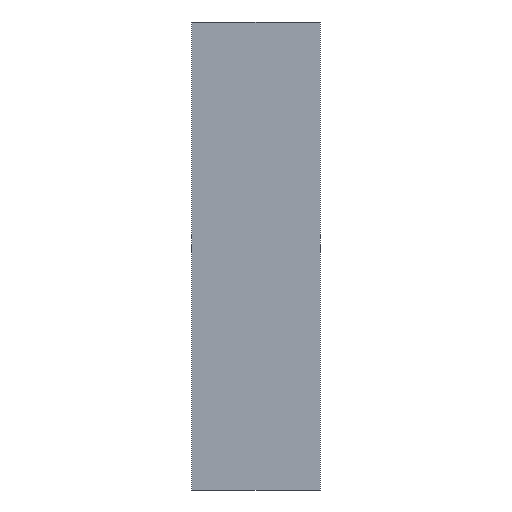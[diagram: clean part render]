
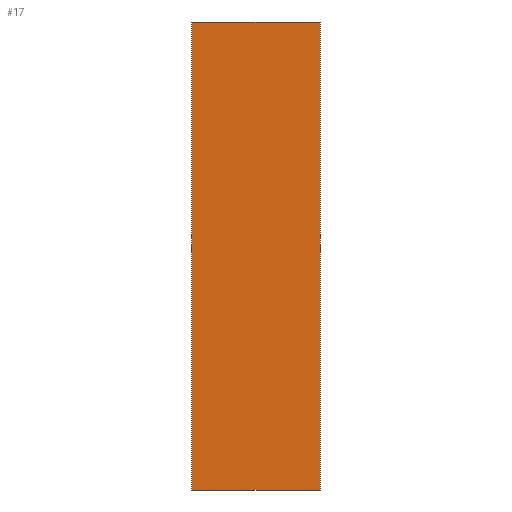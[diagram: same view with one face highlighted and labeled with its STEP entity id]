
A CAD part, left-side view. The second image highlights one B-rep face of the part: STEP entity #17.
In plain terms, the highlighted planar face has unit normal (-1, 0, 0).
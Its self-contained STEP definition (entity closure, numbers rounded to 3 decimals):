
#17 = ADVANCED_FACE('',(#18),#52,.F.);
#18 = FACE_BOUND('',#19,.F.);
#19 = EDGE_LOOP('',(#20,#30,#38,#46));
#20 = ORIENTED_EDGE('',*,*,#21,.F.);
#21 = EDGE_CURVE('',#22,#24,#26,.T.);
#22 = VERTEX_POINT('',#23);
#23 = CARTESIAN_POINT('',(-4.,-22.,0.));
#24 = VERTEX_POINT('',#25);
#25 = CARTESIAN_POINT('',(-4.,-22.,160.));
#26 = LINE('',#27,#28);
#27 = CARTESIAN_POINT('',(-4.,-22.,0.));
#28 = VECTOR('',#29,1.);
#29 = DIRECTION('',(0.,0.,1.));
#30 = ORIENTED_EDGE('',*,*,#31,.T.);
#31 = EDGE_CURVE('',#22,#32,#34,.T.);
#32 = VERTEX_POINT('',#33);
#33 = CARTESIAN_POINT('',(-4.,22.,0.));
#34 = LINE('',#35,#36);
#35 = CARTESIAN_POINT('',(-4.,-22.,0.));
#36 = VECTOR('',#37,1.);
#37 = DIRECTION('',(-0.,1.,0.));
#38 = ORIENTED_EDGE('',*,*,#39,.T.);
#39 = EDGE_CURVE('',#32,#40,#42,.T.);
#40 = VERTEX_POINT('',#41);
#41 = CARTESIAN_POINT('',(-4.,22.,160.));
#42 = LINE('',#43,#44);
#43 = CARTESIAN_POINT('',(-4.,22.,0.));
#44 = VECTOR('',#45,1.);
#45 = DIRECTION('',(0.,0.,1.));
#46 = ORIENTED_EDGE('',*,*,#47,.F.);
#47 = EDGE_CURVE('',#24,#40,#48,.T.);
#48 = LINE('',#49,#50);
#49 = CARTESIAN_POINT('',(-4.,-22.,160.));
#50 = VECTOR('',#51,1.);
#51 = DIRECTION('',(-0.,1.,0.));
#52 = PLANE('',#53);
#53 = AXIS2_PLACEMENT_3D('',#54,#55,#56);
#54 = CARTESIAN_POINT('',(-4.,-22.,0.));
#55 = DIRECTION('',(1.,0.,-0.));
#56 = DIRECTION('',(0.,0.,1.));
